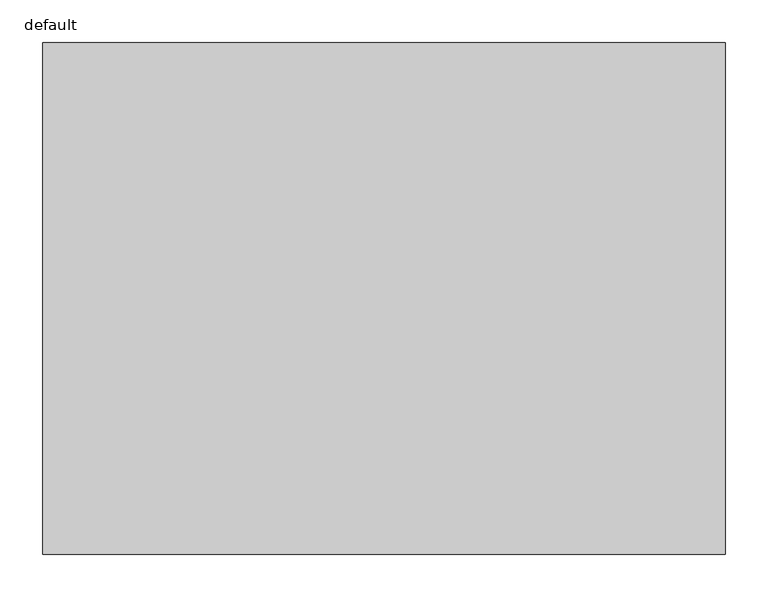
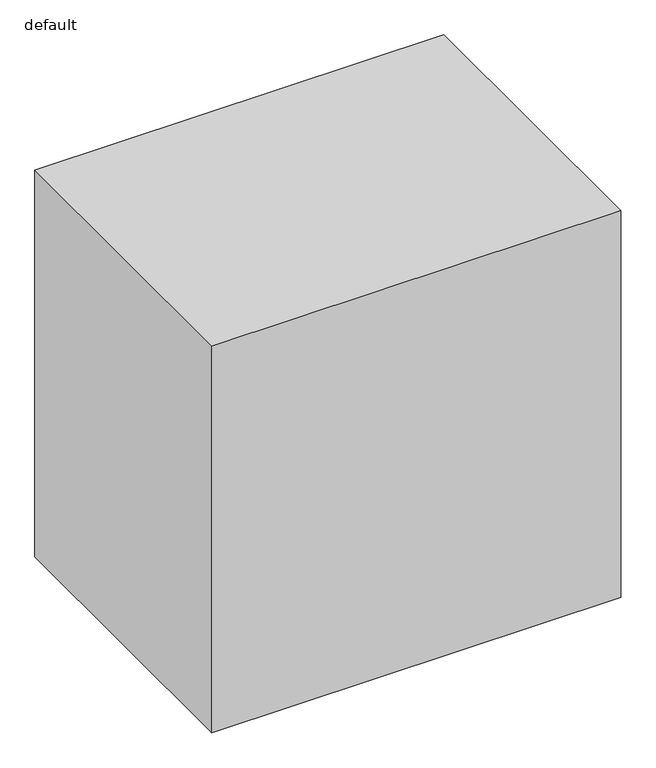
"""IFC4 building model written with IfcOpenShell, lengths in millimetres: furniture geometry, Fu_кухонный напольный модуль_LEG : default."""

from ifc_helpers import new_model, si_unit, origin, origin_with_axes, place, context, project, spatial, polyline, outline, extrude, source, transform, mapped, element, save


def default_49931e53(model_context):
    return source(origin(), model_context, "Body", "SweptSolid", [
        extrude(outline(polyline([(800.0, 0.0), (0.0, 0.0), (0.0, 600.0), (800.0, 600.0), (800.0, 0.0)])), origin_with_axes(), (0.0, 0.0, 1.0), 800.0),
    ])


if __name__ == "__main__":
    model = new_model("IFC4")
    model_context = context("Model", 3, world=origin())
    ifc_project = project(units=[si_unit("LENGTHUNIT", "METRE", prefix="MILLI")], contexts=[model_context])
    site = spatial("IfcSite", under=ifc_project)
    building = spatial("IfcBuilding", under=site)
    placement = place(None, origin())
    default_shape = default_49931e53(model_context)
    element("IfcFurniture", 1, ObjectType="Fu_кухонный напольный модуль_LEG : default", at=placement, inside=building, context=model_context, shape_type="MappedRepresentation", body=[
        mapped(default_shape, transform((0.0, 0.0, 0.0), x_axis=(1.0, 0.0, 0.0), y_axis=(0.0, 1.0, 0.0), z_axis=(0.0, 0.0, 1.0))),
    ])
    save(model, "model.ifc")
